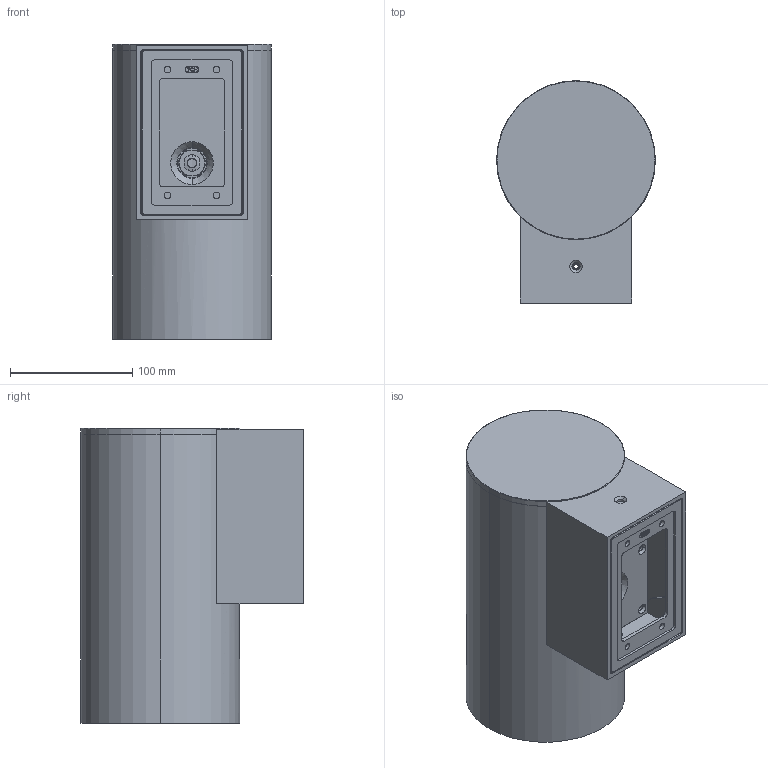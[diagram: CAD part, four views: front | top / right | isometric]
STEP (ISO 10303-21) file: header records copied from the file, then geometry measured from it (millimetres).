
FILE_DESCRIPTION((''),'2;1');
FILE_NAME('R7CH0173_ASM','2024-09-04T',('C027'),(''),'CREO PARAMETRIC BY PTC INC, 2014500','CREO PARAMETRIC BY PTC INC, 2014500','');
FILE_SCHEMA(('CONFIG_CONTROL_DESIGN'));
Products named in the file (37): NEWHOUSE-T16; COVER-130_2_32; ZSB7CH0173-ASM-0225_1_ASM; HEATSINK-130_27_3; HEATSINK-COVER-130_16_3; RUBBER-130_29_3; PC-130_26_3; FACE-COVER-130_27_3; LED_3_3; COB-COVER-100-130_3_3; REFLECTOR-150_1_3; LEDS-150_1_3; LED-160_ASM_2_ASM_3_ASM; HEXAGON_SOCKET_COUNTERSUNK_HEAD; SCREW-M3_6_3; HEATSINK-130-1_15_3; M3X34LZ; D130_ASM_50_ASM_3_ASM; D130_ASM_ASM_3_ASM; 7CH-GB; 7CH-1A_ASM; BACK-COVER-130_9_3; BACK-COVER-PLANT-130_2_3; 7BC015_1_10; B3BB-RUBBER_1_11; SCREW-M12_1_3; RUBBER-1_1_3; QUEEN_ASM_1_ASM_3_ASM; WALL-COVER-130_13_3; 7CH-CY_ASM; B66_37_; GUANY-00_37_; B66_; B66_ASM_37__ASM; GYYB; LK; R7CH0173_ASM
Assembly tree (48 placements, depth 6):
  R7CH0173_ASM
    ZSB7CH0173-ASM-0225_1_ASM
      NEWHOUSE-T16
      COVER-130_2_32
    7CH-1A_ASM
      D130_ASM_ASM_3_ASM
        D130_ASM_50_ASM_3_ASM
          HEATSINK-130_27_3
          HEATSINK-COVER-130_16_3
          RUBBER-130_29_3
          PC-130_26_3
          FACE-COVER-130_27_3
          LED-160_ASM_2_ASM_3_ASM
            LED_3_3
            COB-COVER-100-130_3_3
            REFLECTOR-150_1_3
            LEDS-150_1_3
          HEXAGON_SOCKET_COUNTERSUNK_HEAD  x6
          SCREW-M3_6_3  x6
          HEATSINK-130-1_15_3
          M3X34LZ  x3
      7CH-GB
    7CH-CY_ASM
      BACK-COVER-130_9_3
      BACK-COVER-PLANT-130_2_3
      QUEEN_ASM_1_ASM_3_ASM
        7BC015_1_10
        B3BB-RUBBER_1_11
        SCREW-M12_1_3
        RUBBER-1_1_3
      WALL-COVER-130_13_3
    B66_ASM_37__ASM
      B66_37_
      GUANY-00_37_
      B66_
    GYYB
    LK
Bounding box: 130 x 182 x 242 mm (x, y, z)
Volume: 1114957.8 mm3; surface area: 627114.1 mm2
Topology: 40 solids, 40 shells, 3258 faces, 8105 edges, 4998 vertices
Faces by surface type: plane 1209, cylinder 980, cone 924, bspline 74, torus 68, sphere 2, extrusion 1
Entity records: 74690 total; most frequent: CARTESIAN_POINT 22203, ORIENTED_EDGE 10870, DIRECTION 10850, EDGE_CURVE 5435, AXIS2_PLACEMENT_3D 3749, VERTEX_POINT 3550, VECTOR 3352, LINE 3351
